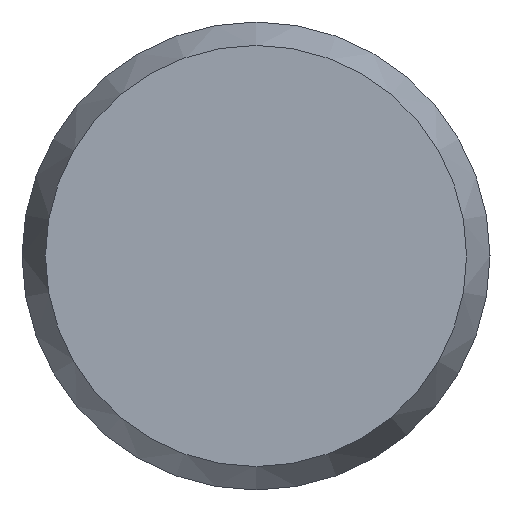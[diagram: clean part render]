
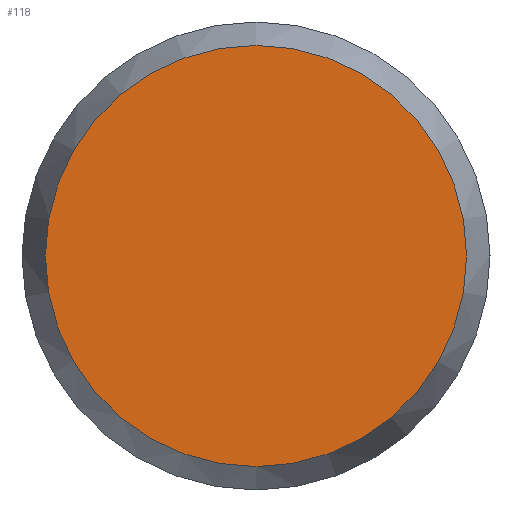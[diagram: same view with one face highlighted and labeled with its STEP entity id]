
A CAD part, left-side view. The second image highlights one B-rep face of the part: STEP entity #118.
In plain terms, the highlighted planar face has unit normal (-1, 0, 0).
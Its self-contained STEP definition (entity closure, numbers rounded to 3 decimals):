
#118=ADVANCED_FACE('',(#124),#122,.F.);
#122=PLANE('',#188);
#124=FACE_OUTER_BOUND('',#136,.T.);
#136=EDGE_LOOP('',(#150));
#150=ORIENTED_EDGE('',*,*,#166,.F.);
#159=VERTEX_POINT('',#242);
#166=EDGE_CURVE('',#159,#159,#173,.T.);
#173=CIRCLE('',#187,4.5);
#187=AXIS2_PLACEMENT_3D('',#241,#216,#217);
#188=AXIS2_PLACEMENT_3D('',#243,#218,#219);
#216=DIRECTION('',(1.,0.,0.));
#217=DIRECTION('',(0.,0.,-1.));
#218=DIRECTION('',(1.,0.,0.));
#219=DIRECTION('',(0.,0.,-1.));
#241=CARTESIAN_POINT('',(7893.912,6103.288,0.));
#242=CARTESIAN_POINT('',(7893.912,6103.288,-4.5));
#243=CARTESIAN_POINT('',(7893.912,6103.288,0.));
